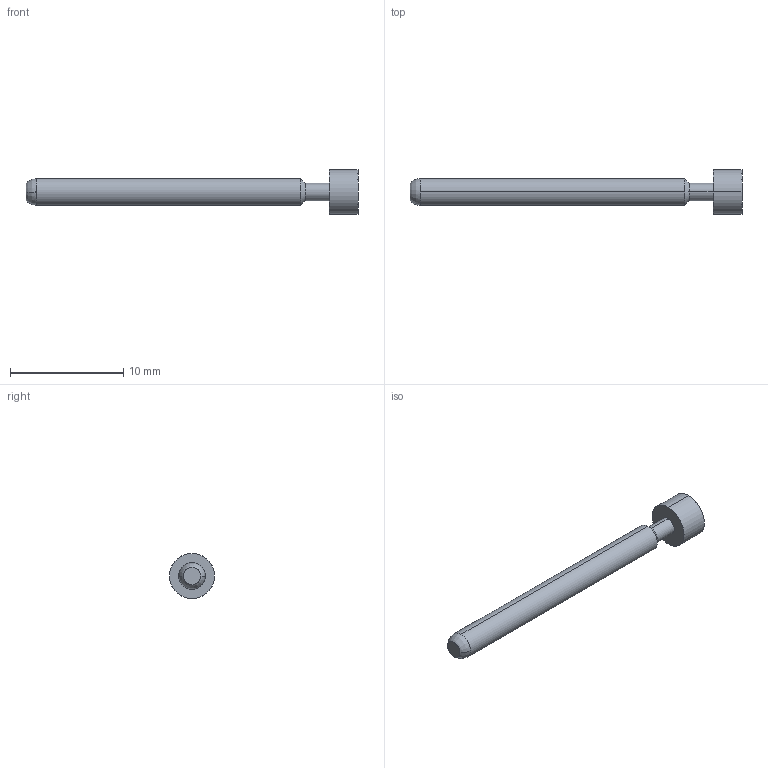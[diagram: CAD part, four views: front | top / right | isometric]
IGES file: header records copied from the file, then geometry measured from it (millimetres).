
Start section: SolidWorks IGES file using analytic representation for surfaces
Global section: file name: Z:\probe solid model mockups\Solidworks models\IGES Files\EPA-4 IGES files\EPA-4F RECD.IGS; native system: SolidWorks 2006 by SolidWorks Corporation; preprocessor: SolidWorks 2006 by SolidWorks Corporation; author: tsakatani; date: 080103.104400; units: inch
Bounding box: 29.29 x 3.96 x 3.96 mm (x, y, z)
Surface area: 249.7 mm2 (no closed solid volume)
Topology: 0 solids, 0 shells, 13 faces, 140 edges, 140 vertices
Faces by surface type: revolution 10, bspline 3
